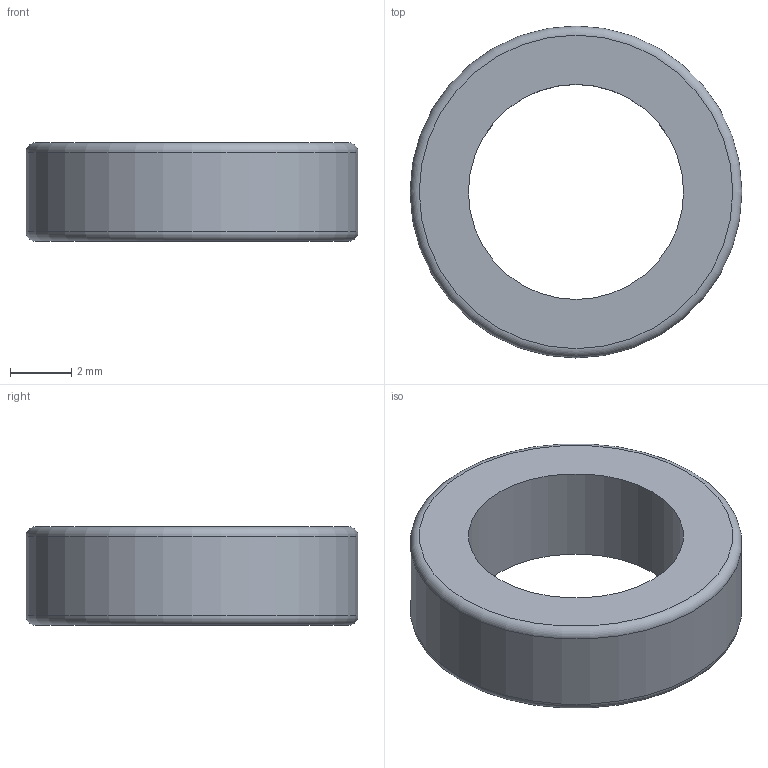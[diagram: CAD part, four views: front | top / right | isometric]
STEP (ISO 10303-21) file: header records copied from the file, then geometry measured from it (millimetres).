
FILE_DESCRIPTION(('Open CASCADE Model'),'2;1');
FILE_NAME('Open CASCADE Shape Model','2026-10-09T16:33:00',('Author'),( 'Open CASCADE'),'Open CASCADE STEP processor 8.0','build123d', 'Unknown');
FILE_SCHEMA(('AUTOMOTIVE_DESIGN { 1 0 10303 214 1 1 1 1 }'));
Length unit declared in the file: millimetre
Products named in the file (1): COMPOUND
Bounding box: 10.8 x 10.8 x 3.2 mm (x, y, z)
Volume: 168.7 mm3; surface area: 276.4 mm2
Topology: 1 solids, 1 shells, 6 faces, 10 edges, 6 vertices
Faces by surface type: cylinder 2, plane 2, torus 2
Full cylindrical faces by diameter (mm): 7 x1, 10.8 x1
Entity records: 290 total; most frequent: DIRECTION 52, CARTESIAN_POINT 43, ORIENTED_EDGE 20, PCURVE 20, DEFINITIONAL_REPRESENTATION 20, LINE 18, VECTOR 18, AXIS2_PLACEMENT_3D 15
